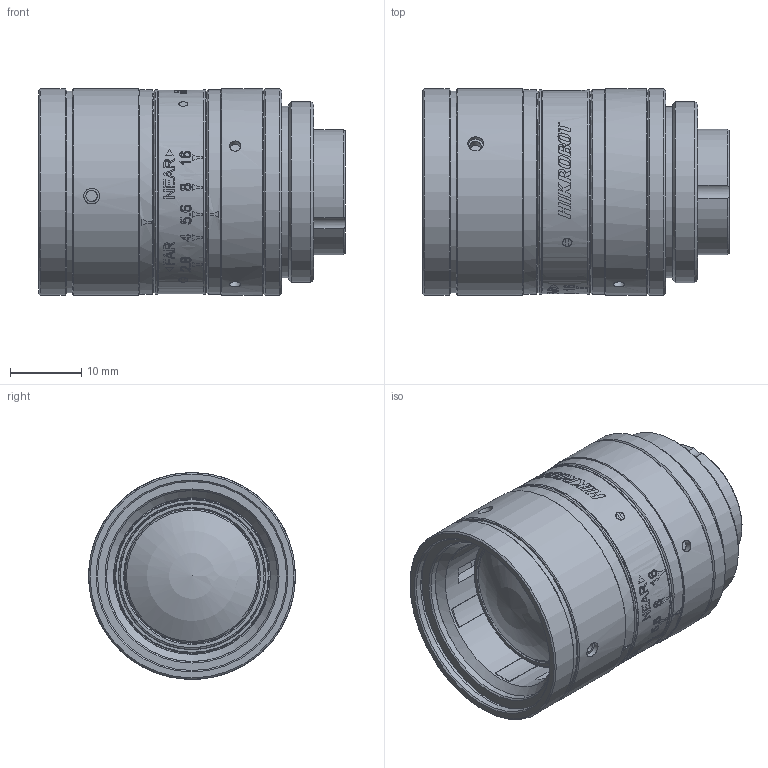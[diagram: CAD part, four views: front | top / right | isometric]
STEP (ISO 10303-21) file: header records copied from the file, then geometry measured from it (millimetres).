
FILE_DESCRIPTION(/* description */ (''),/* implementation_level */ '2;1');
FILE_NAME(/* name */ '60047-A 3D.stp',/* time_stamp */ '2025-06-05T11:08:18+08:00',/* author */ (''),/* organization */ (''),/* preprocessor_version */ 'ST-DEVELOPER v16.7',/* originating_system */ 'SIEMENS PLM Software NX 12.0',/* authorisation */ '');
FILE_SCHEMA (('AUTOMOTIVE_DESIGN { 1 0 10303 214 3 1 1 1 }'));
Length unit declared in the file: millimetre
Products named in the file (1): YC10A2484594d51l
Bounding box: 42.96 x 29 x 29 mm (x, y, z)
Volume: 613.1 mm3; surface area: 12503.3 mm2
Topology: 12 solids, 13 shells, 1028 faces, 2626 edges, 1707 vertices
Faces by surface type: plane 438, cylinder 348, cone 120, bspline 94, extrusion 17, torus 7, sphere 3, revolution 1
Full cylindrical faces by diameter (mm): 0.5 x3, 1.2 x2, 1.25 x3, 1.4 x2, 1.6 x16, 1.8 x5, 1.9 x3, 2.2 x3, 2.5 x8, 2.7 x3, 10.686 x1, 10.984 x1, 13.3 x1, 13.7 x1, 15.5 x1, 16 x1, 16.1 x1, 21.6 x1, 21.992 x1, 24 x2, 25.2 x2, 25.4 x1, 26.1 x1, 26.5 x1, 27.2 x1, 27.5 x1, 27.6 x1, 28 x1, 28.1 x1, 28.3 x1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
Entity records: 69560 total; most frequent: CARTESIAN_POINT 46392, ORIENTED_EDGE 4726, DIRECTION 4259, EDGE_CURVE 2363, AXIS2_PLACEMENT_3D 1758, VERTEX_POINT 1614, EDGE_LOOP 1304, ADVANCED_FACE 1015
